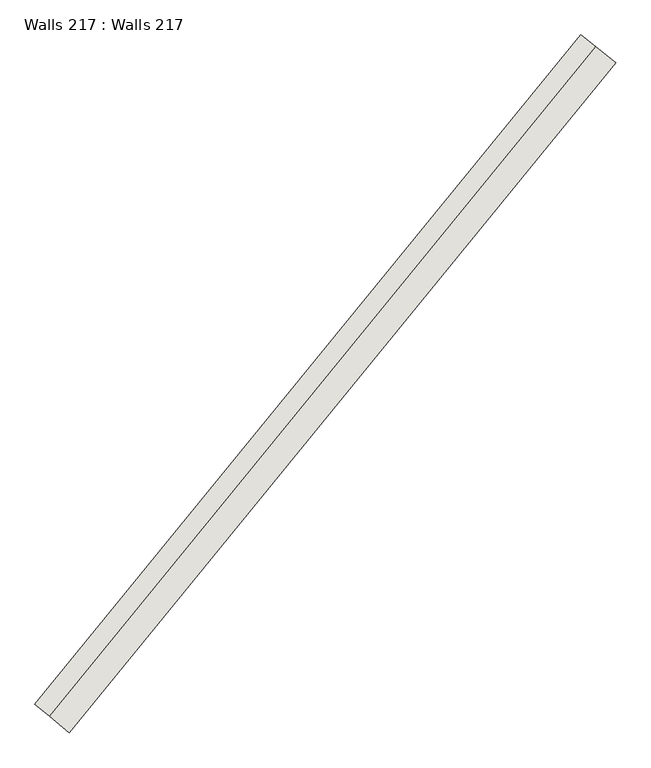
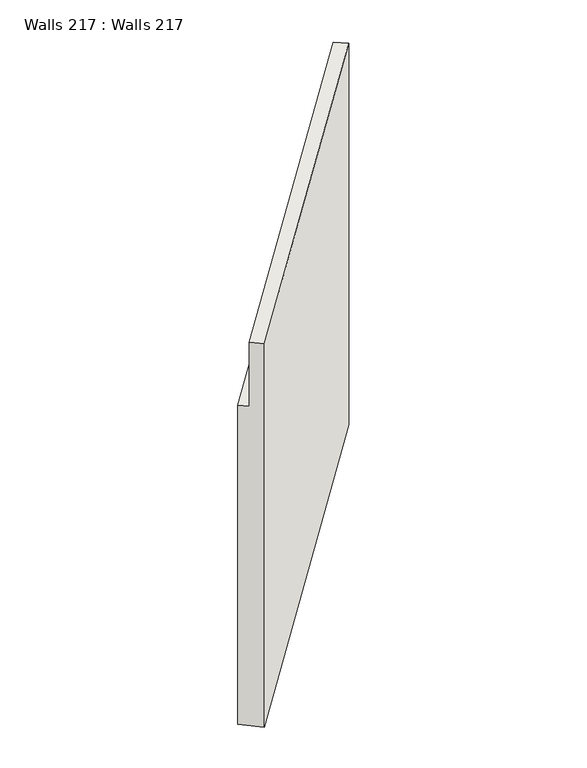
"""IFC4 building model written with IfcOpenShell, lengths in millimetres: wall geometry, Walls 217 : Walls 217."""

from ifc_helpers import new_model, si_unit, frame, origin, place, context, project, spatial, source, transform, mapped, element, save
from ifc_brep_helpers import plane_surface, spline_curve, spline_surface, advanced_brep


def walls_217_walls_217_fbf40c88(model_context):
    return source(origin(), model_context, "Body", "AdvancedBrep", [
        advanced_brep(
        [(391360.735181, 308734.5422757, 645300.0), (391086.4886364, 308952.0022324, 645300.0), (391086.4886364, 308952.0022324, 650270.0), (391204.0228698, 308858.8051081, 650270.0), (391204.0228698, 308858.8051081, 651270.0), (391360.735181, 308734.5422757, 651270.0), (387107.874557, 303525.9482256, 645210.0), (387107.874557, 303525.9482256, 651210.0), (386954.7817016, 303654.6439039, 651210.0), (386954.7817016, 303654.6439039, 650210.0), (386839.9620601, 303751.1656627, 650210.0), (386839.9620601, 303751.1656627, 645210.0)],
        [
            (0, 1),
            (1, 2),
            (2, 3),
            (3, 4),
            (4, 5),
            (5, 0),
            (6, 7),
            (7, 8),
            (8, 9),
            (9, 10),
            (10, 11),
            (11, 6),
            (11, 1, spline_curve(3, [(386839.9620601, 303751.1656627, 645210.0), (388280.178020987, 305464.407136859, 645240.000000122), (389695.880056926, 307198.255916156, 645269.999999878), (391086.4886364, 308952.0022324, 645300.0)], [4, 4], [0.0, 22.0474778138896])),
            (0, 6, spline_curve(3, [(391360.735181, 308734.5422757, 645300.0), (389968.052393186, 306978.180101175, 645269.999999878), (388550.238719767, 305241.745142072, 645240.000000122), (387107.874557, 303525.9482256, 645210.0)], [4, 4], [0.0, 22.0474778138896])),
            (10, 2, spline_curve(3, [(386839.9620601, 303751.1656627, 650210.0), (388280.1780205, 305464.407137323, 650230.000000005), (389695.880057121, 307198.255916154, 650249.999999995), (391086.4886364, 308952.0022324, 650270.0)], [4, 4], [0.0, 22.03044556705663])),
            (9, 3, spline_curve(3, [(386954.7817016, 303654.6439039, 650210.0), (388395.918320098, 305368.980567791, 650230.000000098), (389812.525344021, 307103.937709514, 650249.999999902), (391204.0228698, 308858.8051081, 650270.0)], [4, 4], [0.0, 22.036991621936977])),
            (8, 4, spline_curve(3, [(386954.7817016, 303654.6439039, 651210.0), (388395.918320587, 305368.980567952, 651230.000000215), (389812.52534388, 307103.937710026, 651249.999999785), (391204.0228698, 308858.8051081, 651270.0)], [4, 4], [0.0, 22.044032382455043])),
            (7, 5, spline_curve(3, [(387107.874557, 303525.9482256, 651210.0), (388550.238719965, 305241.745142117, 651229.999999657), (389968.052393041, 306978.180101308, 651250.000000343), (391360.735181, 308734.5422757, 651270.0)], [4, 4], [0.0, 22.05342006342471])),
        ],
        [
            plane_surface(frame((391217.0822291, 308848.4498721, 648946.6666667), z_axis=(0.6213141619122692, 0.783561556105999, 0.0), x_axis=(-0.783561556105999, 0.6213141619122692, 0.0))),
            plane_surface(frame((386967.5394395, 303643.9192641, 648876.6666667), z_axis=(-0.6434783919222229, -0.7654642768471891, 0.0), x_axis=(-0.7654642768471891, 0.6434783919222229, 0.0))),
            spline_surface(3, 3, [[(387107.874557, 303525.9482256, 645210.0), (388550.238719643, 305241.74514212, 645240.0), (389968.052392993, 306978.180101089, 645270.0), (391360.735181, 308734.5422757, 645300.0)], [(387018.570391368, 303601.020704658, 645210.0), (388460.218486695, 305315.965807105, 645240.0), (389877.328280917, 307051.538706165, 645270.0), (391269.319666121, 308807.028927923, 645300.0)], [(386929.266225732, 303676.093183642, 645210.0), (388370.198253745, 305390.186472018, 645240.0), (389786.604168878, 307124.897311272, 645270.0), (391177.904151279, 308879.515580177, 645300.0)], [(386839.9620601, 303751.1656627, 645210.0), (388280.178020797, 305464.407137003, 645240.0), (389695.880056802, 307198.255916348, 645270.0), (391086.4886364, 308952.0022324, 645300.0)]], [4, 4], [4, 4], [0.0, 1.1482939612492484], [0.0, 22.0474778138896]),
            spline_surface(3, 3, [[(386839.9620601, 303751.1656627, 645210.0), (388280.178020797, 305464.407137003, 645240.0), (389695.880056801, 307198.255916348, 645270.0), (391086.4886364, 308952.0022324, 645300.0)], [(386839.9620601, 303751.1656627, 646876.666666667), (388280.178020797, 305464.407137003, 646903.333333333), (389695.880056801, 307198.255916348, 646930.0), (391086.4886364, 308952.0022324, 646956.666666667)], [(386839.9620601, 303751.1656627, 648543.333333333), (388280.178020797, 305464.407137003, 648566.666666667), (389695.880056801, 307198.255916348, 648590.0), (391086.4886364, 308952.0022324, 648613.333333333)], [(386839.9620601, 303751.1656627, 650210.0), (388280.178020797, 305464.407137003, 650230.0), (389695.880056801, 307198.255916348, 650250.0), (391086.4886364, 308952.0022324, 650270.0)]], [4, 4], [4, 4], [0.0, 16.35498687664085], [0.0, 22.03044556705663]),
            spline_surface(3, 3, [[(386839.9620601, 303751.1656627, 650210.0), (388280.178020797, 305464.407137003, 650230.0), (389695.880056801, 307198.255916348, 650250.0), (391086.4886364, 308952.0022324, 650270.0)], [(386878.235273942, 303718.991743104, 650210.0), (388318.758120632, 305432.598280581, 650230.0), (389734.76181912, 307166.816514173, 650250.0), (391125.666714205, 308920.936524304, 650270.0)], [(386916.508487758, 303686.817823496, 650210.0), (388357.338220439, 305400.789424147, 650230.0), (389773.643581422, 307135.377111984, 650250.0), (391164.844791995, 308889.870816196, 650270.0)], [(386954.7817016, 303654.6439039, 650210.0), (388395.918320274, 305368.980567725, 650230.0), (389812.525343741, 307103.937709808, 650250.0), (391204.0228698, 308858.8051081, 650270.0)]], [4, 4], [4, 4], [0.0, 0.4921259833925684], [0.0, 22.036991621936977]),
            spline_surface(3, 3, [[(386954.7817016, 303654.6439039, 650210.0), (388395.918320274, 305368.980567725, 650230.0), (389812.525343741, 307103.937709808, 650250.0), (391204.0228698, 308858.8051081, 650270.0)], [(386954.7817016, 303654.6439039, 650543.333333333), (388395.918320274, 305368.980567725, 650563.333333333), (389812.525343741, 307103.937709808, 650583.333333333), (391204.0228698, 308858.8051081, 650603.333333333)], [(386954.7817016, 303654.6439039, 650876.666666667), (388395.918320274, 305368.980567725, 650896.666666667), (389812.525343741, 307103.937709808, 650916.666666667), (391204.0228698, 308858.8051081, 650936.666666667)], [(386954.7817016, 303654.6439039, 651210.0), (388395.918320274, 305368.980567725, 651230.0), (389812.525343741, 307103.937709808, 651250.0), (391204.0228698, 308858.8051081, 651270.0)]], [4, 4], [4, 4], [0.0, 3.280839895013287], [0.0, 22.044032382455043]),
            spline_surface(3, 3, [[(386954.7817016, 303654.6439039, 651210.0), (388395.918320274, 305368.980567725, 651230.0), (389812.525343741, 307103.937709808, 651250.0), (391204.0228698, 308858.8051081, 651270.0)], [(387005.81265339, 303611.745344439, 651210.0), (388447.358453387, 305326.568759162, 651230.0), (389864.367693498, 307062.018506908, 651250.0), (391256.260306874, 308817.384163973, 651270.0)], [(387056.84360521, 303568.846785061, 651210.0), (388498.79858653, 305284.156950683, 651230.0), (389916.210043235, 307020.09930399, 651250.0), (391308.497743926, 308775.963219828, 651270.0)], [(387107.874557, 303525.9482256, 651210.0), (388550.238719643, 305241.74514212, 651230.0), (389968.052392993, 306978.180101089, 651250.0), (391360.735181, 308734.5422757, 651270.0)]], [4, 4], [4, 4], [0.0, 0.6561679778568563], [0.0, 22.05342006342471]),
            spline_surface(3, 3, [[(387107.874557, 303525.9482256, 651210.0), (388550.238719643, 305241.74514212, 651230.0), (389968.052392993, 306978.180101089, 651250.0), (391360.735181, 308734.5422757, 651270.0)], [(387107.874557, 303525.9482256, 649210.0), (388550.238719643, 305241.74514212, 649233.333333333), (389968.052392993, 306978.180101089, 649256.666666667), (391360.735181, 308734.5422757, 649280.0)], [(387107.874557, 303525.9482256, 647210.0), (388550.238719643, 305241.74514212, 647236.666666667), (389968.052392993, 306978.180101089, 647263.333333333), (391360.735181, 308734.5422757, 647290.0)], [(387107.874557, 303525.9482256, 645210.0), (388550.238719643, 305241.74514212, 645240.0), (389968.052392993, 306978.180101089, 645270.0), (391360.735181, 308734.5422757, 645300.0)]], [4, 4], [4, 4], [0.0, 19.635826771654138], [0.0, 22.063301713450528]),
        ],
        [
            (0, [[1, 2, 3, 4, 5, 6]]),
            (1, [[7, 8, 9, 10, 11, 12]]),
            (2, [[-12, 13, -1, 14]]),
            (3, [[-11, 15, -2, -13]]),
            (4, [[-10, 16, -3, -15]]),
            (5, [[-9, 17, -4, -16]]),
            (6, [[-8, 18, -5, -17]]),
            (7, [[-7, -14, -6, -18]]),
        ],
    ),
    ])


if __name__ == "__main__":
    model = new_model("IFC4")
    model_context = context("Model", 3, world=origin())
    ifc_project = project(units=[si_unit("LENGTHUNIT", "METRE", prefix="MILLI")], contexts=[model_context])
    site = spatial("IfcSite", under=ifc_project)
    building = spatial("IfcBuilding", under=site)
    placement = place(None, origin())
    walls_217_walls_217_shape = walls_217_walls_217_fbf40c88(model_context)
    element("IfcWall", 1, ObjectType="Walls 217 : Walls 217", at=placement, inside=building, context=model_context, shape_type="MappedRepresentation", body=[
        mapped(walls_217_walls_217_shape, transform((0.0, 0.0, 0.0), x_axis=(1.0, 0.0, 0.0), y_axis=(0.0, 1.0, 0.0), z_axis=(0.0, 0.0, 1.0))),
    ])
    save(model, "model.ifc")
